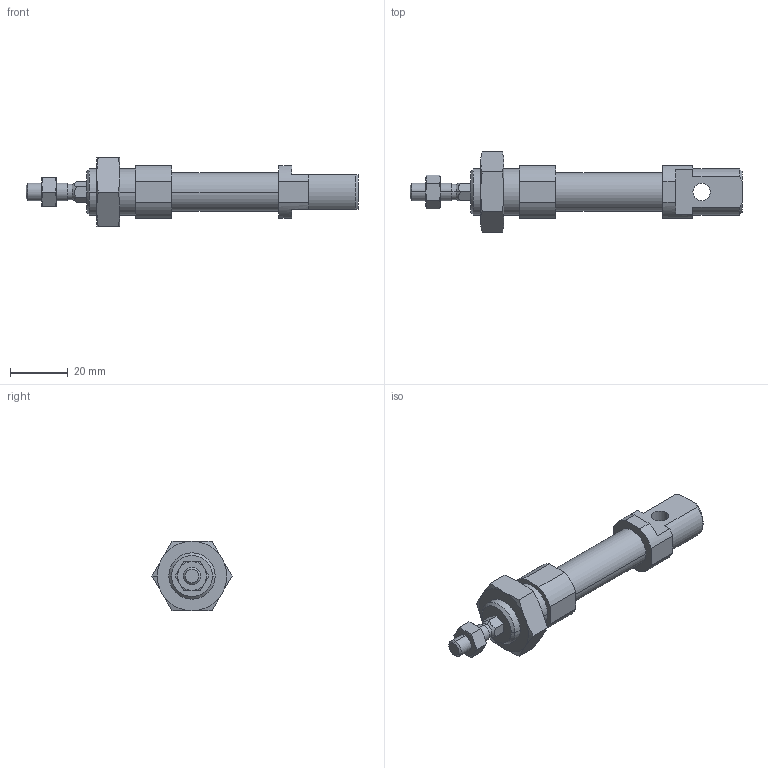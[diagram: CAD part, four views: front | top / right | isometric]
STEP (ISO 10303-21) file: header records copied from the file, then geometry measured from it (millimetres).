
FILE_DESCRIPTION (( 'STEP AP203' ), '1' );
FILE_NAME ('CSMK12-10.STEP', '2020-04-02T10:40:51', ( '' ), ( '' ), 'SwSTEP 2.0', 'SolidWorks 2019', '' );
FILE_SCHEMA (( 'CONFIG_CONTROL_DESIGN' ));
Length unit declared in the file: millimetre
Products named in the file (1): CSMK12-10
Bounding box: 115 x 27.71 x 24 mm (x, y, z)
Volume: 19902.1 mm3; surface area: 10760.2 mm2
Topology: 4 solids, 4 shells, 135 faces, 310 edges, 189 vertices
Faces by surface type: plane 53, cone 50, cylinder 32
Entity records: 4287 total; most frequent: CARTESIAN_POINT 1185, DIRECTION 636, ORIENTED_EDGE 616, EDGE_CURVE 308, AXIS2_PLACEMENT_3D 250, VERTEX_POINT 189, EDGE_LOOP 151, LINE 136
